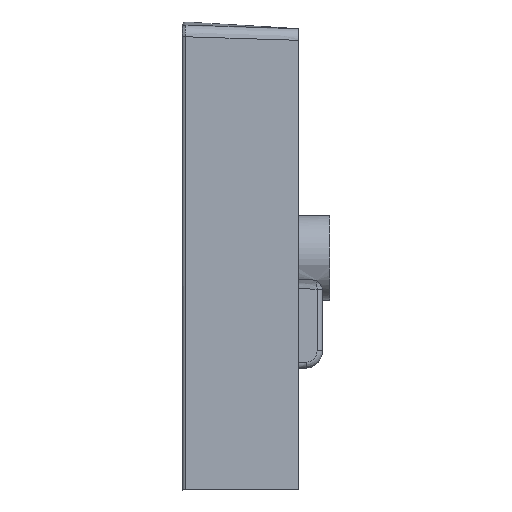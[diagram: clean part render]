
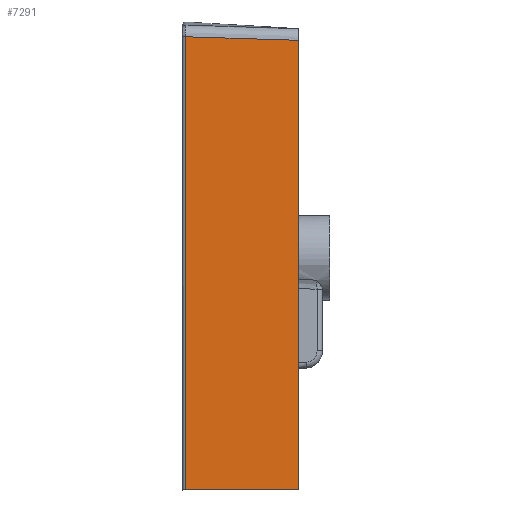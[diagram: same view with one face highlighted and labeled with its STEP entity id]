
A CAD part, left-side view. The second image highlights one B-rep face of the part: STEP entity #7291.
In plain terms, the highlighted planar face has unit normal (-1, -0.03, -0.003).
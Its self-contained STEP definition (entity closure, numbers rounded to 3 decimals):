
#832 = EDGE_CURVE ( 'NONE', #32601, #29693, #22239, .T. ) ;
#1686 = EDGE_LOOP ( 'NONE', ( #31982, #3790, #27974, #22084 ) ) ;
#1951 = VECTOR ( 'NONE', #29533, 1000. ) ;
#2063 = B_SPLINE_CURVE_WITH_KNOTS ( 'NONE', 3,
 ( #30344, #23030, #20078, #9474 ),
 .UNSPECIFIED., .F., .F.,
 ( 4, 4 ),
 ( 0.031, 0.999 ),
 .UNSPECIFIED. ) ;
#2278 = B_SPLINE_CURVE_WITH_KNOTS ( 'NONE', 3,
 ( #11563, #27734, #6182, #16758, #27392, #3919, #14510, #3579, #14164, #24792 ),
 .UNSPECIFIED., .F., .F.,
 ( 4, 3, 3, 4 ),
 ( 0., 0.018, 0.05, 0.097 ),
 .UNSPECIFIED. ) ;
#2602 = DIRECTION ( 'NONE',  ( -0.03, 1., 0. ) ) ;
#3579 = CARTESIAN_POINT ( 'NONE',  ( -249.949, -34.135, 189.134 ) ) ;
#3790 = ORIENTED_EDGE ( 'NONE', *, *, #10423, .T. ) ;
#3919 = CARTESIAN_POINT ( 'NONE',  ( -249.155, -60.532, 188.299 ) ) ;
#4586 = VECTOR ( 'NONE', #6081, 1000. ) ;
#4696 = CARTESIAN_POINT ( 'NONE',  ( -251., 0., 200. ) ) ;
#5379 = PLANE ( 'NONE',  #30276 ) ;
#6081 = DIRECTION ( 'NONE',  ( 0.002, 0., -1. ) ) ;
#6182 = CARTESIAN_POINT ( 'NONE',  ( -248.324, -88.155, 187.425 ) ) ;
#7291 = ADVANCED_FACE ( 'NONE', ( #10086 ), #5379, .T. ) ;
#9474 = CARTESIAN_POINT ( 'NONE',  ( -247.003, -99.9, -199.993 ) ) ;
#10065 = CARTESIAN_POINT ( 'NONE',  ( -247.971, -99.9, 187.053 ) ) ;
#10086 = FACE_OUTER_BOUND ( 'NONE', #1686, .T. ) ;
#10423 = EDGE_CURVE ( 'NONE', #23295, #31023, #26931, .T. ) ;
#11563 = CARTESIAN_POINT ( 'NONE',  ( -247.971, -99.9, 187.053 ) ) ;
#14164 = CARTESIAN_POINT ( 'NONE',  ( -250.416, -18.612, 189.624 ) ) ;
#14510 = CARTESIAN_POINT ( 'NONE',  ( -249.482, -49.657, 188.643 ) ) ;
#16758 = CARTESIAN_POINT ( 'NONE',  ( -248.5, -82.282, 187.611 ) ) ;
#20078 = CARTESIAN_POINT ( 'NONE',  ( -247.971, -67.63, -199.995 ) ) ;
#20196 = EDGE_CURVE ( 'NONE', #32601, #23295, #2278, .T. ) ;
#22084 = ORIENTED_EDGE ( 'NONE', *, *, #832, .F. ) ;
#22239 = LINE ( 'NONE', #32830, #4586 ) ;
#23030 = CARTESIAN_POINT ( 'NONE',  ( -248.939, -35.36, -199.997 ) ) ;
#23216 = CARTESIAN_POINT ( 'NONE',  ( -247.003, -99.9, -199.993 ) ) ;
#23295 = VERTEX_POINT ( 'NONE', #27682 ) ;
#23845 = EDGE_CURVE ( 'NONE', #31023, #29693, #2063, .T. ) ;
#24792 = CARTESIAN_POINT ( 'NONE',  ( -250.882, -3.09, 190.114 ) ) ;
#25917 = DIRECTION ( 'NONE',  ( -1., -0.03, -0.002 ) ) ;
#26931 = LINE ( 'NONE', #29362, #1951 ) ;
#27392 = CARTESIAN_POINT ( 'NONE',  ( -248.828, -71.407, 187.955 ) ) ;
#27682 = CARTESIAN_POINT ( 'NONE',  ( -250.882, -3.09, 190.114 ) ) ;
#27734 = CARTESIAN_POINT ( 'NONE',  ( -248.147, -94.027, 187.239 ) ) ;
#27974 = ORIENTED_EDGE ( 'NONE', *, *, #23845, .T. ) ;
#29362 = CARTESIAN_POINT ( 'NONE',  ( -249.907, -3.09, -200. ) ) ;
#29533 = DIRECTION ( 'NONE',  ( 0.002, 0., -1. ) ) ;
#29693 = VERTEX_POINT ( 'NONE', #23216 ) ;
#30276 = AXIS2_PLACEMENT_3D ( 'NONE', #4696, #25917, #2602 ) ;
#30344 = CARTESIAN_POINT ( 'NONE',  ( -249.907, -3.09, -200. ) ) ;
#31023 = VERTEX_POINT ( 'NONE', #34103 ) ;
#31982 = ORIENTED_EDGE ( 'NONE', *, *, #20196, .T. ) ;
#32601 = VERTEX_POINT ( 'NONE', #10065 ) ;
#32830 = CARTESIAN_POINT ( 'NONE',  ( -248.003, -99.9, 200.007 ) ) ;
#34103 = CARTESIAN_POINT ( 'NONE',  ( -249.907, -3.09, -200. ) ) ;
